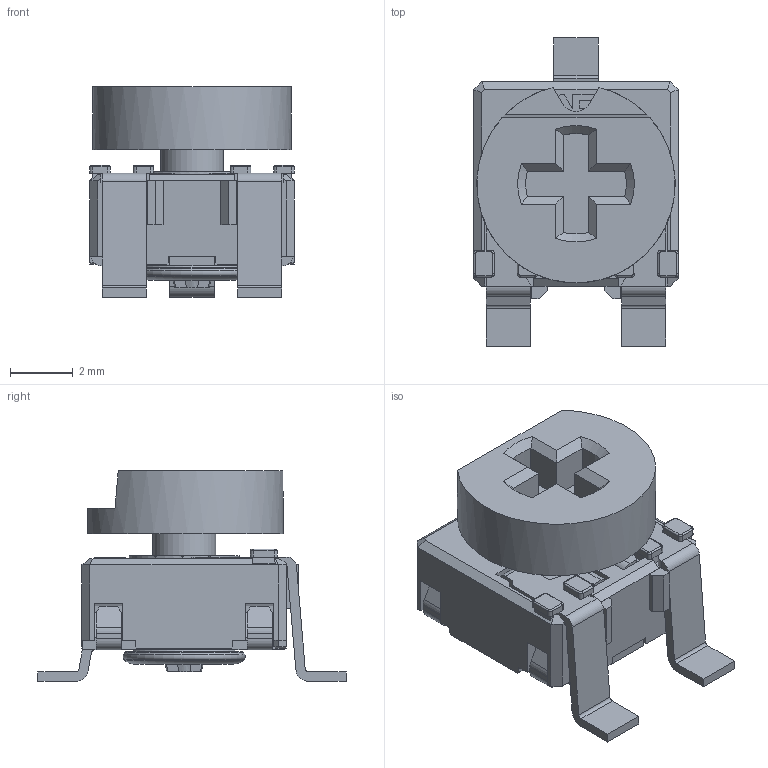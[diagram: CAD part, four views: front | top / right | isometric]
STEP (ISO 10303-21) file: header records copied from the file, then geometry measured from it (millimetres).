
FILE_DESCRIPTION(/* description */ (''),/* implementation_level */ '2;1');
FILE_NAME(/* name */ 'C:\Users\CEM\Desktop\ENVIAR\TRANSICION 3D CATALOGOS\COMCA6XVSMD WT-6030.stp',/* time_stamp */ '2026-03-20T08:23:24+01:00',/* author */ ('CEM'),/* organization */ (''),/* preprocessor_version */ 'ST-DEVELOPER v16.13',/* originating_system */ 'Autodesk Inventor 2018',/* authorisation */ '');
FILE_SCHEMA (('AUTOMOTIVE_DESIGN { 1 0 10303 214 3 1 1 }'));
Length unit declared in the file: millimetre
Products named in the file (3): CA6XVSMD WT-6030; CARCASA CA6; BOTON  6030-PR
Assembly tree (2 placements, depth 2):
  CA6XVSMD WT-6030
    CARCASA CA6
    BOTON  6030-PR
Bounding box: 6.5 x 9.8 x 6.7 mm (x, y, z)
Volume: 149.9 mm3; surface area: 533.8 mm2
Topology: 2 solids, 2 shells, 594 faces, 1616 edges, 1030 vertices
Faces by surface type: plane 438, cylinder 105, cone 29, bspline 16, torus 6
Full cylindrical faces by diameter (mm): 1.2 x4, 2 x1, 2.5 x1, 2.7 x1, 2.9 x1, 3.1 x1, 3.5 x1
Entity records: 18701 total; most frequent: CARTESIAN_POINT 3423, ORIENTED_EDGE 3188, DIRECTION 3037, EDGE_CURVE 1593, LINE 1247, VECTOR 1247, VERTEX_POINT 1027, AXIS2_PLACEMENT_3D 895
